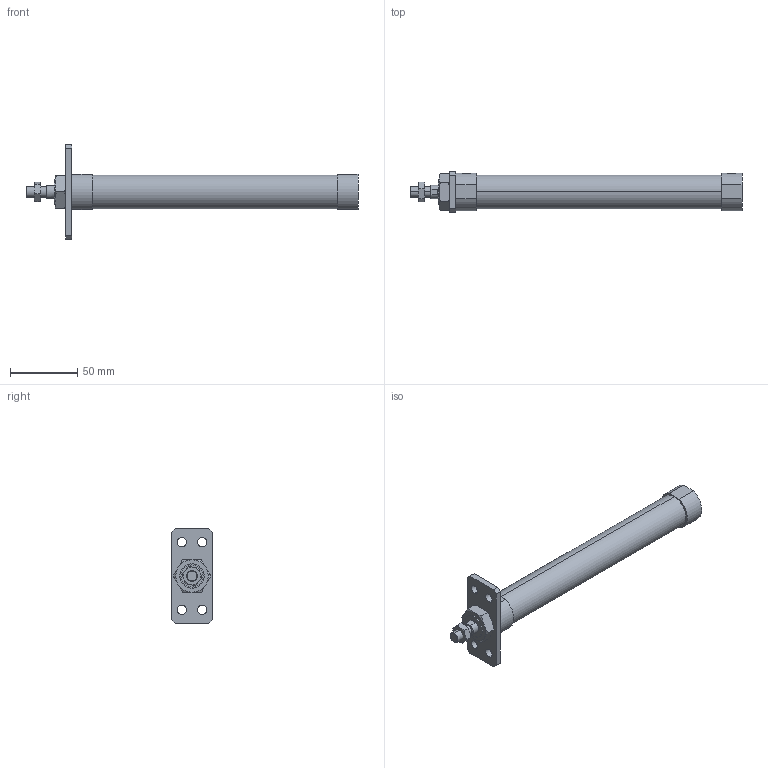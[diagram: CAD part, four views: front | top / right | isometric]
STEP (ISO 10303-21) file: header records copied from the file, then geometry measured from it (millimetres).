
FILE_DESCRIPTION (( 'STEP AP203' ), '1' );
FILE_NAME ('JGND2-20-150-A.STEP', '2016-08-04T02:33:05', ( '' ), ( '' ), 'SwSTEP 2.0', 'SolidWorks 2014', '' );
FILE_SCHEMA (( 'CONFIG_CONTROL_DESIGN' ));
Length unit declared in the file: millimetre
Products named in the file (5): J#2-20-A; J#2-20-150(P); JGND2-20-150-A
Assembly tree (4 placements, depth 2):
  JGND2-20-150-A
    J#2-20-150(P)
    (unnamed)
    (unnamed)
    J#2-20-A
Bounding box: 246 x 30 x 70 mm (x, y, z)
Volume: 120687.2 mm3; surface area: 27344.1 mm2
Topology: 4 solids, 4 shells, 104 faces, 236 edges, 148 vertices
Faces by surface type: plane 44, cylinder 32, torus 24, cone 4
Entity records: 3803 total; most frequent: CARTESIAN_POINT 951, DIRECTION 494, ORIENTED_EDGE 472, EDGE_CURVE 236, AXIS2_PLACEMENT_3D 203, VERTEX_POINT 148, EDGE_LOOP 126, ADVANCED_FACE 104
